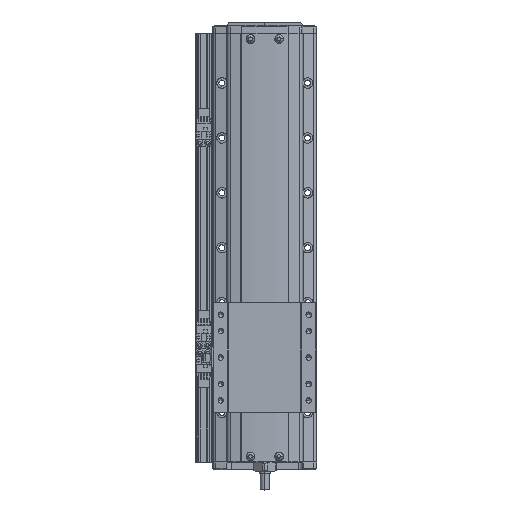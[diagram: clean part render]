
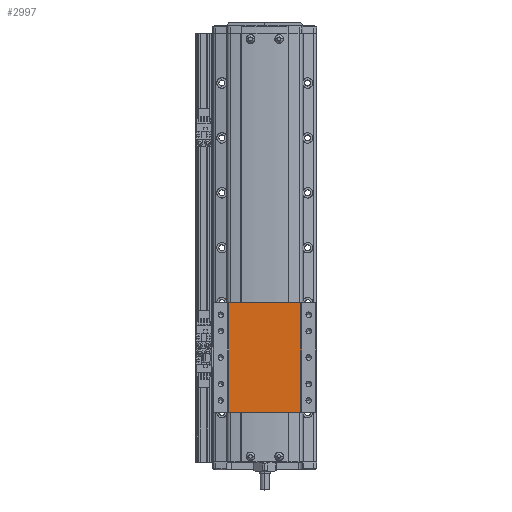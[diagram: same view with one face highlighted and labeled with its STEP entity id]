
A CAD part, top view. The second image highlights one B-rep face of the part: STEP entity #2997.
In plain terms, the highlighted planar face has unit normal (0, 0, 1).
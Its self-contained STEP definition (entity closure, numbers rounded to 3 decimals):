
#2997=ADVANCED_FACE('',(#7866),#7867,.F.);
#7866=FACE_OUTER_BOUND('',#15495,.T.);
#7867=PLANE('',#15496);
#15495=EDGE_LOOP('',(#25181,#25182,#25183,#25184));
#15496=AXIS2_PLACEMENT_3D('',#25185,#25186,#25187);
#25181=ORIENTED_EDGE('',*,*,#45152,.F.);
#25182=ORIENTED_EDGE('',*,*,#45153,.F.);
#25183=ORIENTED_EDGE('',*,*,#45154,.F.);
#25184=ORIENTED_EDGE('',*,*,#45155,.T.);
#25185=CARTESIAN_POINT('',(0.,92.222,30.5));
#25186=DIRECTION('',(0.,0.,-1.0));
#25187=DIRECTION('',(-1.0,0.,0.));
#45152=EDGE_CURVE('',#54598,#54599,#54600,.T.);
#45153=EDGE_CURVE('',#54601,#54598,#54602,.T.);
#45154=EDGE_CURVE('',#54603,#54601,#54604,.T.);
#45155=EDGE_CURVE('',#54603,#54599,#54605,.T.);
#54598=VERTEX_POINT('',#67895);
#54599=VERTEX_POINT('',#67896);
#54600=LINE('',#67897,#67898);
#54601=VERTEX_POINT('',#67899);
#54602=LINE('',#67900,#67901);
#54603=VERTEX_POINT('',#67902);
#54604=LINE('',#67903,#67904);
#54605=LINE('',#67905,#67906);
#67895=CARTESIAN_POINT('',(-32.876,192.222,30.5));
#67896=CARTESIAN_POINT('',(32.876,192.222,30.5));
#67897=CARTESIAN_POINT('',(32.876,192.222,30.5));
#67898=VECTOR('',#83354,10.0);
#67899=CARTESIAN_POINT('',(-32.876,92.222,30.5));
#67900=CARTESIAN_POINT('',(-32.876,92.222,30.5));
#67901=VECTOR('',#83355,10.0);
#67902=CARTESIAN_POINT('',(32.876,92.222,30.5));
#67903=CARTESIAN_POINT('',(32.876,92.222,30.5));
#67904=VECTOR('',#83356,10.0);
#67905=CARTESIAN_POINT('',(32.876,92.222,30.5));
#67906=VECTOR('',#83357,10.0);
#83354=DIRECTION('',(1.0,0.,0.));
#83355=DIRECTION('',(0.,1.0,0.));
#83356=DIRECTION('',(-1.0,0.,0.));
#83357=DIRECTION('',(0.,1.0,0.));
